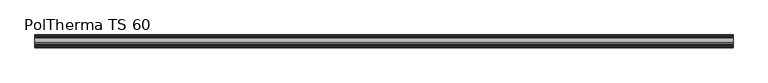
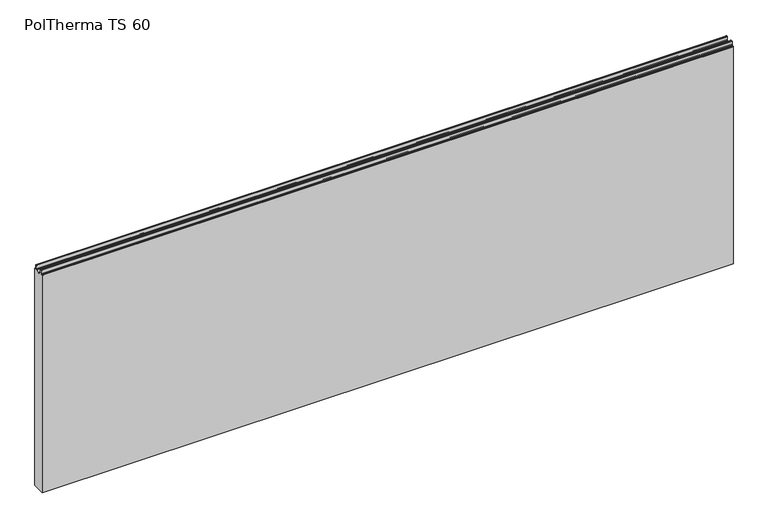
"""IFC4 building model written with IfcOpenShell, lengths in millimetres: plate geometry, Europanels_Poltherma TS_Hz : PolTherma TS 60."""

from ifc_helpers import new_model, si_unit, frame, origin, place, context, project, spatial, polyline, circle_curve, source, transform, mapped, element, save
from ifc_brep_helpers import plane_surface, cylinder_surface, revolved_surface, advanced_brep


def poltherma_ts_60_dc3e1cb6(model_context):
    return source(origin(), model_context, "Body", "AdvancedBrep", [
        advanced_brep(
        [(1650.0, -30.0, 1096.5011047), (1650.0, -30.0, 0.0), (1650.0, 30.0, 0.0), (1650.0, 30.0, 1096.5011047), (1650.0, 28.0, 1098.5011047), (1650.0, 26.2557869, 1098.5011047), (1650.0, 24.2596673, 1100.3765791), (1650.0, 23.1836057, 1117.6256302), (1650.0, 20.8891901, 1119.5129093), (1650.0, 18.8727407, 1117.5838246), (1650.0, 18.1120505, 1100.4152514), (1650.0, 16.113894, 1098.5011047), (1650.0, 13.3234285, 1098.5011047), (1650.0, -7.9234285, 1098.5011047), (1650.0, -11.9117672, 1098.5011047), (1650.0, -13.7101357, 1100.2244834), (1650.0, -14.4498501, 1117.5862394), (1650.0, -16.4480373, 1119.5011047), (1650.0, -19.1874198, 1119.5011047), (1650.0, -21.1836192, 1117.624345), (1650.0, -22.2483736, 1100.3778643), (1650.0, -24.244573, 1098.5011047), (1650.0, -28.0, 1098.5011047), (-1650.0, -30.0, 1096.5011047), (-1650.0, -28.0, 1098.5011047), (-1650.0, -24.244573, 1098.5011047), (-1650.0, -22.2483736, 1100.3778643), (-1650.0, -21.1836192, 1117.624345), (-1650.0, -19.1874198, 1119.5011047), (-1650.0, -16.4480373, 1119.5011047), (-1650.0, -14.4498501, 1117.5862394), (-1650.0, -13.7101357, 1100.2244834), (-1650.0, -11.9117672, 1098.5011047), (-1650.0, -7.9234285, 1098.5011047), (-1650.0, 13.3234285, 1098.5011047), (-1650.0, 16.113894, 1098.5011047), (-1650.0, 18.1120505, 1100.4152514), (-1650.0, 18.8727407, 1117.5838246), (-1650.0, 20.8891901, 1119.5129093), (-1650.0, 23.1349611, 1117.6366155), (-1650.0, 24.2596673, 1100.3765791), (-1650.0, 26.2557869, 1098.5011047), (-1650.0, 28.0, 1098.5011047), (-1650.0, 30.0, 1096.5011047), (-1650.0, 30.0, 0.0), (-1650.0, -30.0, 0.0)],
        [
            (0, 1),
            (1, 2),
            (2, 3),
            (3, 4, circle_curve(frame((1650.0, 28.0, 1096.5011047), z_axis=(1.0, 0.0, 0.0), x_axis=(0.0, 1.0, 0.0)), 2.0)),
            (4, 5),
            (5, 6, circle_curve(frame((1650.0, 26.2557869, 1100.5011047), z_axis=(-1.0, 0.0, 0.0), x_axis=(0.0, 1.0, 0.0)), 2.0)),
            (6, 7),
            (7, 8, circle_curve(frame((1650.0, 21.1234323, 1117.5111287), z_axis=(1.0, 0.0, 0.0), x_axis=(0.0, 1.0, 0.0)), 2.0154391)),
            (8, 9, circle_curve(frame((1650.0, 20.8891901, 1117.4944815), z_axis=(1.0, 0.0, 0.0), x_axis=(0.0, 1.0, 0.0)), 2.0184277)),
            (9, 10),
            (10, 11, circle_curve(frame((1650.0, 16.113894, 1100.5011047), z_axis=(-1.0, 0.0, 0.0), x_axis=(0.0, 1.0, 0.0)), 2.0)),
            (11, 12),
            (12, 13, circle_curve(frame((1650.0, 2.7, 1101.354658), z_axis=(-1.0, 0.0, 0.0), x_axis=(0.0, 1.0, 0.0)), 11.0)),
            (13, 14),
            (14, 15, circle_curve(frame((1650.0, -11.9117672, 1100.3011047), z_axis=(-1.0, 0.0, 0.0), x_axis=(0.0, 1.0, 0.0)), 1.8)),
            (15, 16),
            (16, 17, circle_curve(frame((1650.0, -16.4480373, 1117.5011047), z_axis=(1.0, 0.0, 0.0), x_axis=(0.0, 1.0, 0.0)), 2.0)),
            (17, 18),
            (18, 19, circle_curve(frame((1650.0, -19.1874198, 1117.5011047), z_axis=(1.0, 0.0, 0.0), x_axis=(0.0, 1.0, 0.0)), 2.0)),
            (19, 20),
            (20, 21, circle_curve(frame((1650.0, -24.244573, 1100.5011047), z_axis=(-1.0, 0.0, 0.0), x_axis=(0.0, 1.0, 0.0)), 2.0)),
            (21, 22),
            (22, 0, circle_curve(frame((1650.0, -28.0, 1096.5011047), z_axis=(1.0, 0.0, 0.0), x_axis=(0.0, 1.0, 0.0)), 2.0)),
            (23, 24, circle_curve(frame((-1650.0, -28.0, 1096.5011047), z_axis=(-1.0, 0.0, 0.0), x_axis=(0.0, 1.0, 0.0)), 2.0)),
            (24, 25),
            (25, 26, circle_curve(frame((-1650.0, -24.244573, 1100.5011047), z_axis=(1.0, 0.0, 0.0), x_axis=(0.0, 1.0, 0.0)), 2.0)),
            (26, 27),
            (27, 28, circle_curve(frame((-1650.0, -19.1874198, 1117.5011047), z_axis=(-1.0, 0.0, 0.0), x_axis=(0.0, 1.0, 0.0)), 2.0)),
            (28, 29),
            (29, 30, circle_curve(frame((-1650.0, -16.4480373, 1117.5011047), z_axis=(-1.0, 0.0, 0.0), x_axis=(0.0, 1.0, 0.0)), 2.0)),
            (30, 31),
            (31, 32, circle_curve(frame((-1650.0, -11.9117672, 1100.3011047), z_axis=(1.0, 0.0, 0.0), x_axis=(0.0, 1.0, 0.0)), 1.8)),
            (32, 33),
            (33, 34, circle_curve(frame((-1650.0, 2.7, 1101.354658), z_axis=(1.0, 0.0, 0.0), x_axis=(0.0, 1.0, 0.0)), 11.0)),
            (34, 35),
            (35, 36, circle_curve(frame((-1650.0, 16.113894, 1100.5011047), z_axis=(1.0, 0.0, 0.0), x_axis=(0.0, 1.0, 0.0)), 2.0)),
            (36, 37),
            (37, 38, circle_curve(frame((-1650.0, 20.8891901, 1117.4944815), z_axis=(-1.0, 0.0, 0.0), x_axis=(0.0, 1.0, 0.0)), 2.0184277)),
            (38, 39, circle_curve(frame((-1650.0, 21.1234323, 1117.5111287), z_axis=(-1.0, 0.0, 0.0), x_axis=(0.0, 1.0, 0.0)), 2.0154391)),
            (39, 40),
            (40, 41, circle_curve(frame((-1650.0, 26.2557869, 1100.5011047), z_axis=(1.0, 0.0, 0.0), x_axis=(0.0, 1.0, 0.0)), 2.0)),
            (41, 42),
            (42, 43, circle_curve(frame((-1650.0, 28.0, 1096.5011047), z_axis=(-1.0, 0.0, 0.0), x_axis=(0.0, 1.0, 0.0)), 2.0)),
            (43, 44),
            (44, 45),
            (45, 23),
            (0, 23),
            (45, 1),
            (2, 44),
            (43, 3),
            (42, 4),
            (41, 5),
            (40, 6),
            (39, 7),
            (38, 8),
            (37, 9),
            (36, 10),
            (35, 11),
            (34, 12),
            (33, 13),
            (32, 14),
            (31, 15),
            (30, 16),
            (29, 17),
            (28, 18),
            (27, 19),
            (26, 20),
            (25, 21),
            (24, 22),
        ],
        [
            plane_surface(frame((1650.0, -30.0, 0.0), z_axis=(1.0, 0.0, 0.0), x_axis=(0.0, 0.0, -1.0))),
            plane_surface(frame((-1650.0, -30.0, 0.0), z_axis=(-1.0, 0.0, 0.0), x_axis=(0.0, 0.0, 1.0))),
            plane_surface(frame((1650.0, -30.0, 1096.5011047), z_axis=(0.0, -1.0, 0.0), x_axis=(-1.0, 0.0, 0.0))),
            plane_surface(frame((1650.0, 30.0, 0.0), z_axis=(0.0, 1.0, 0.0), x_axis=(-1.0, 0.0, 0.0))),
            cylinder_surface(frame((-1650.0, 28.0, 1096.5011047), z_axis=(1.0, 0.0, 0.0), x_axis=(0.0, 1.0, 0.0)), 2.0),
            plane_surface(frame((1650.0, 28.0, 1098.5011047), z_axis=(0.0, 1.862502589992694e-12, 1.0), x_axis=(-1.0, 0.0, 0.0))),
            revolved_surface(polyline([(-1650.0, 28.2557869, 1100.5011047), (1650.0, 28.2557869, 1100.5011047)]), (-1650.0, 26.2557869, 1100.5011047), (-1.0, 0.0, 0.0)),
            plane_surface(frame((1650.0, 24.2596673, 1100.3765791), z_axis=(0.0, 0.9980597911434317, 0.06226277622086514), x_axis=(-1.0, 0.0, 0.0))),
            cylinder_surface(frame((-1650.0, 21.1234323, 1117.5111287), z_axis=(1.0, 0.0, 0.0), x_axis=(0.0, 1.0, 0.0)), 2.0154391),
            cylinder_surface(frame((-1650.0, 20.8891901, 1117.4944815), z_axis=(1.0, 0.0, 0.0), x_axis=(0.0, 1.0, 0.0)), 2.0184277),
            plane_surface(frame((1650.0, 18.8727407, 1117.5838246), z_axis=(0.0, -0.9990198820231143, 0.04426370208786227), x_axis=(-1.0, 0.0, 0.0))),
            revolved_surface(polyline([(-1650.0, 18.113894, 1100.5011047), (1650.0, 18.113894, 1100.5011047)]), (-1650.0, 16.113894, 1100.5011047), (-1.0, 0.0, 0.0)),
            plane_surface(frame((1650.0, 16.113894, 1098.5011047), z_axis=(0.0, 0.0, 1.0), x_axis=(-1.0, 0.0, 0.0))),
            revolved_surface(polyline([(-1650.0, 13.7, 1101.354658), (1650.0, 13.7, 1101.354658)]), (-1650.0, 2.7, 1101.354658), (-1.0, 0.0, 0.0)),
            plane_surface(frame((1650.0, -7.9234285, 1098.5011047), z_axis=(0.0, 0.0, 1.0), x_axis=(-1.0, 0.0, 0.0))),
            revolved_surface(polyline([(-1650.0, -10.1117672, 1100.3011047), (1650.0, -10.1117672, 1100.3011047)]), (-1650.0, -11.9117672, 1100.3011047), (-1.0, 0.0, 0.0)),
            plane_surface(frame((1650.0, -13.7101357, 1100.2244834), z_axis=(0.0, 0.9990935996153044, 0.04256734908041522), x_axis=(-1.0, 0.0, 0.0))),
            cylinder_surface(frame((-1650.0, -16.4480373, 1117.5011047), z_axis=(1.0, 0.0, 0.0), x_axis=(0.0, 1.0, 0.0)), 2.0),
            plane_surface(frame((1650.0, -16.4480373, 1119.5011047), z_axis=(0.0, 0.0, 1.0), x_axis=(-1.0, 0.0, 0.0))),
            cylinder_surface(frame((-1650.0, -19.1874198, 1117.5011047), z_axis=(1.0, 0.0, 0.0), x_axis=(0.0, 1.0, 0.0)), 2.0),
            plane_surface(frame((1650.0, -21.1836192, 1117.624345), z_axis=(0.0, -0.9980996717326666, 0.06162016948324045), x_axis=(-1.0, 0.0, 0.0))),
            revolved_surface(polyline([(-1650.0, -22.244573, 1100.5011047), (1650.0, -22.244573, 1100.5011047)]), (-1650.0, -24.244573, 1100.5011047), (-1.0, 0.0, 0.0)),
            plane_surface(frame((1650.0, -24.244573, 1098.5011047), z_axis=(0.0, 0.0, 1.0), x_axis=(-1.0, 0.0, 0.0))),
            cylinder_surface(frame((-1650.0, -28.0, 1096.5011047), z_axis=(1.0, 0.0, 0.0), x_axis=(0.0, 1.0, 0.0)), 2.0),
            plane_surface(frame((1650.0, -30.0, 0.0), z_axis=(0.0, 0.0, -1.0), x_axis=(-1.0, 0.0, 0.0))),
        ],
        [
            (0, [[1, 2, 3, 4, 5, 6, 7, 8, 9, 10, 11, 12, 13, 14, 15, 16, 17, 18, 19, 20, 21, 22, 23]]),
            (1, [[24, 25, 26, 27, 28, 29, 30, 31, 32, 33, 34, 35, 36, 37, 38, 39, 40, 41, 42, 43, 44, 45, 46]]),
            (2, [[-1, 47, -46, 48]]),
            (3, [[-3, 49, -44, 50]]),
            (4, [[-4, -50, -43, 51]]),
            (5, [[-5, -51, -42, 52]]),
            (6, [[-6, -52, -41, 53]]),
            (7, [[-7, -53, -40, 54]]),
            (8, [[-8, -54, -39, 55]]),
            (9, [[-9, -55, -38, 56]]),
            (10, [[-10, -56, -37, 57]]),
            (11, [[-11, -57, -36, 58]]),
            (12, [[-12, -58, -35, 59]]),
            (13, [[-13, -59, -34, 60]]),
            (14, [[-14, -60, -33, 61]]),
            (15, [[-15, -61, -32, 62]]),
            (16, [[-16, -62, -31, 63]]),
            (17, [[-17, -63, -30, 64]]),
            (18, [[-18, -64, -29, 65]]),
            (19, [[-19, -65, -28, 66]]),
            (20, [[-20, -66, -27, 67]]),
            (21, [[-21, -67, -26, 68]]),
            (22, [[-22, -68, -25, 69]]),
            (23, [[-23, -69, -24, -47]]),
            (24, [[-2, -48, -45, -49]]),
        ],
    ),
    ])


if __name__ == "__main__":
    model = new_model("IFC4")
    model_context = context("Model", 3, world=origin())
    ifc_project = project(units=[si_unit("LENGTHUNIT", "METRE", prefix="MILLI")], contexts=[model_context])
    site = spatial("IfcSite", under=ifc_project)
    building = spatial("IfcBuilding", under=site)
    placement = place(None, origin())
    poltherma_ts_60_shape = poltherma_ts_60_dc3e1cb6(model_context)
    element("IfcPlate", 1, ObjectType="Europanels_Poltherma TS_Hz : PolTherma TS 60", at=placement, inside=building, context=model_context, shape_type="MappedRepresentation", body=[
        mapped(poltherma_ts_60_shape, transform((0.0, 0.0, 0.0), x_axis=(1.0, 0.0, 0.0), y_axis=(0.0, 1.0, 0.0), z_axis=(0.0, 0.0, 1.0))),
    ])
    save(model, "model.ifc")
